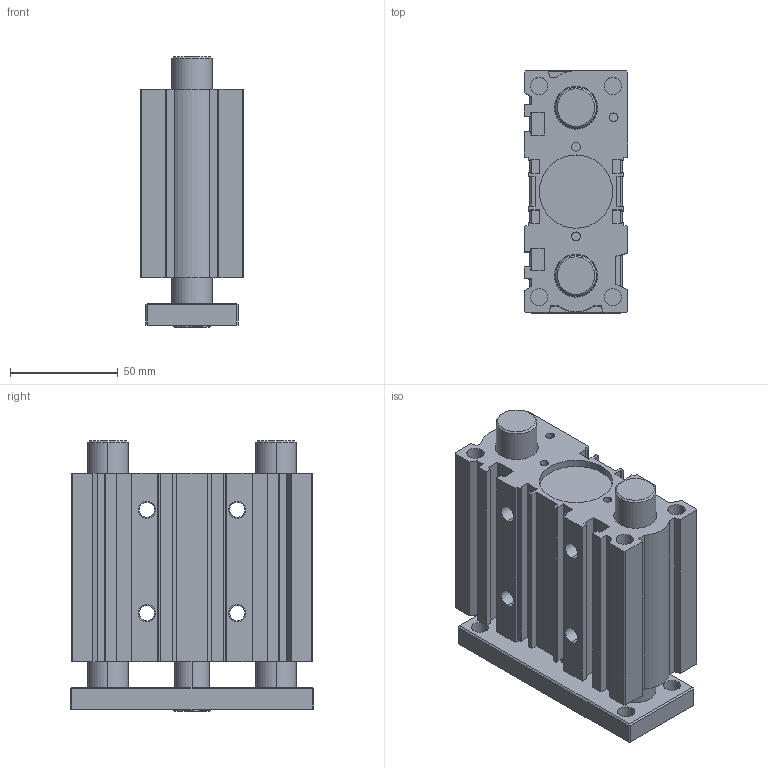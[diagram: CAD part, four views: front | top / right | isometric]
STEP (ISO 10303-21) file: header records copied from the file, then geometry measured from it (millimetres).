
FILE_DESCRIPTION (( 'STEP AP203' ), '1' );
FILE_NAME ('MGPM-32X30-CYLINDER.STEP', '2017-03-10T05:56:34', ( 'user' ), ( '' ), 'SwSTEP 2.0', 'SolidWorks 2013', '' );
FILE_SCHEMA (( 'CONFIG_CONTROL_DESIGN' ));
Length unit declared in the file: millimetre
Products named in the file (3): MGPM-32X30 BORU; MGPM-32X30 烰 KAFA M尳; MGPM-32X30-CYLINDER
Assembly tree (2 placements, depth 2):
  MGPM-32X30-CYLINDER
    MGPM-32X30 BORU
    MGPM-32X30 烰 KAFA M尳
Bounding box: 48 x 113 x 125.5 mm (x, y, z)
Volume: 436867 mm3; surface area: 105809.4 mm2
Topology: 2 solids, 2 shells, 306 faces, 780 edges, 512 vertices
Faces by surface type: plane 195, cylinder 100, cone 11
Entity records: 9779 total; most frequent: CARTESIAN_POINT 1867, DIRECTION 1586, ORIENTED_EDGE 1560, EDGE_CURVE 780, LINE 536, VECTOR 536, AXIS2_PLACEMENT_3D 525, VERTEX_POINT 512
